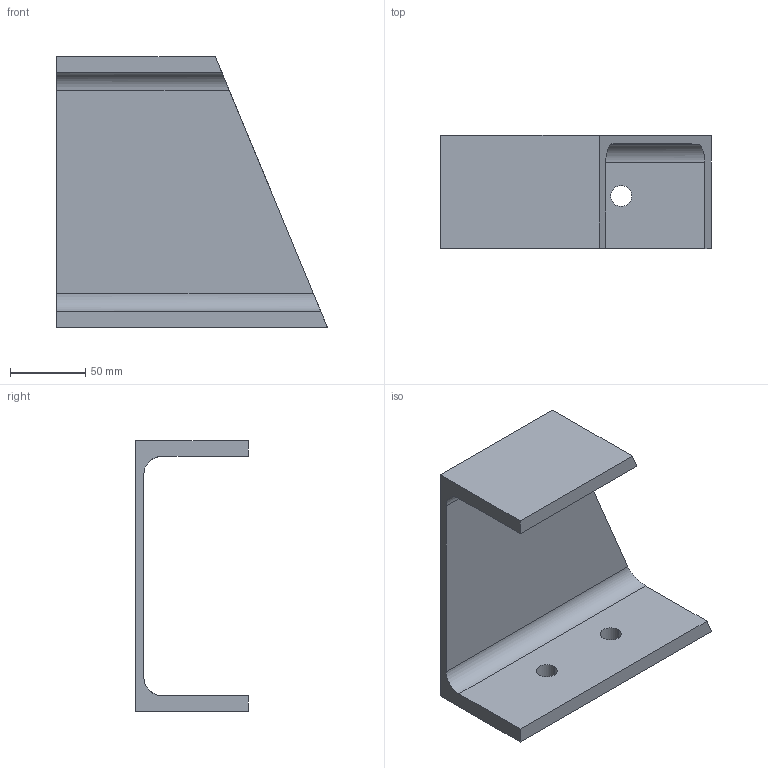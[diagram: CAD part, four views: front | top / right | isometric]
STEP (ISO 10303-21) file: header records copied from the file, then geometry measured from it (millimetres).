
FILE_DESCRIPTION (( 'STEP AP214' ), '1' );
FILE_NAME ('CCJ029-REP.020 - MONTANT ESCALIER INFERIEUR-PLANCHER SYM.STEP', '2024-01-10T14:21:44', ( '' ), ( '' ), 'SwSTEP 2.0', 'SolidWorks 2021', '' );
FILE_SCHEMA (( 'AUTOMOTIVE_DESIGN' ));
Length unit declared in the file: millimetre
Products named in the file (1): CCJ029-REP.020 - MONTANT ESCALIER INFERIEUR-PLANCHER SYM
Bounding box: 180 x 75 x 180 mm (x, y, z)
Volume: 355104.5 mm3; surface area: 96803.8 mm2
Topology: 1 solids, 1 shells, 51 faces, 132 edges, 88 vertices
Faces by surface type: bspline 24, plane 21, cylinder 6
Entity records: 3386 total; most frequent: CARTESIAN_POINT 2254, ORIENTED_EDGE 264, DIRECTION 148, EDGE_CURVE 132, VERTEX_POINT 88, LINE 72, VECTOR 72, EDGE_LOOP 60
